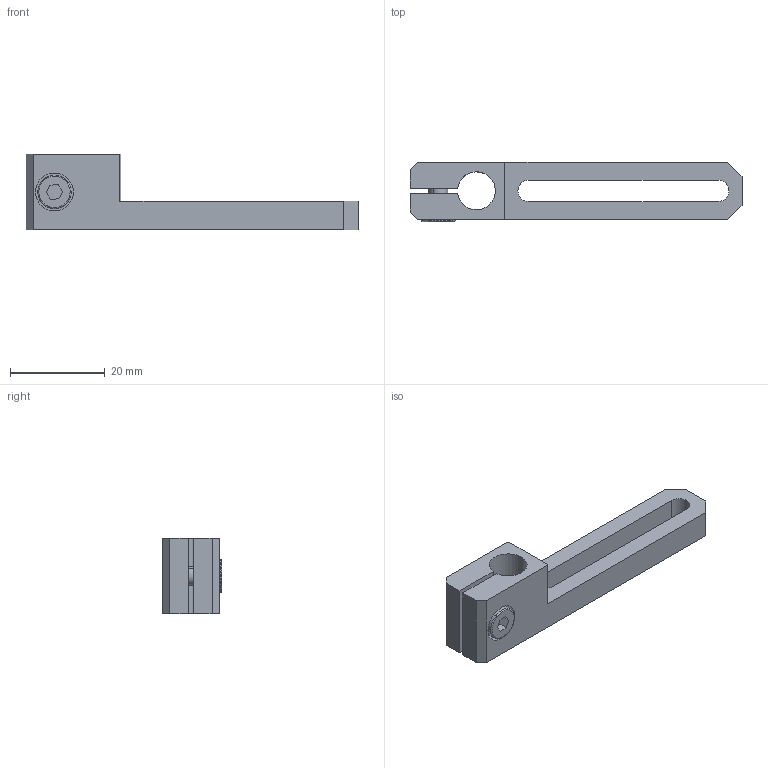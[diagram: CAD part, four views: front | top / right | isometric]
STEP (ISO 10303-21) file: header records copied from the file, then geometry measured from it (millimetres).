
FILE_DESCRIPTION (( 'STEP AP214' ), '1' );
FILE_NAME ('SCF4-0840W12T.STEP', '2023-01-17T02:55:19', ( 'Windows User' ), ( 'P R C' ), 'SwSTEP 2.0', 'SolidWorks 2019', '' );
FILE_SCHEMA (( 'AUTOMOTIVE_DESIGN' ));
Length unit declared in the file: millimetre
Products named in the file (1): SCF4-0840W12T
Bounding box: 70 x 12.5 x 16 mm (x, y, z)
Volume: 5152.5 mm3; surface area: 4441.8 mm2
Topology: 3 solids, 3 shells, 244 faces, 699 edges, 462 vertices
Faces by surface type: plane 222, cylinder 18, cone 2, bspline 2
Entity records: 10866 total; most frequent: CARTESIAN_POINT 1530, DIRECTION 1403, ORIENTED_EDGE 1398, EDGE_CURVE 699, VECTOR 473, LINE 473, AXIS2_PLACEMENT_3D 465, VERTEX_POINT 462
